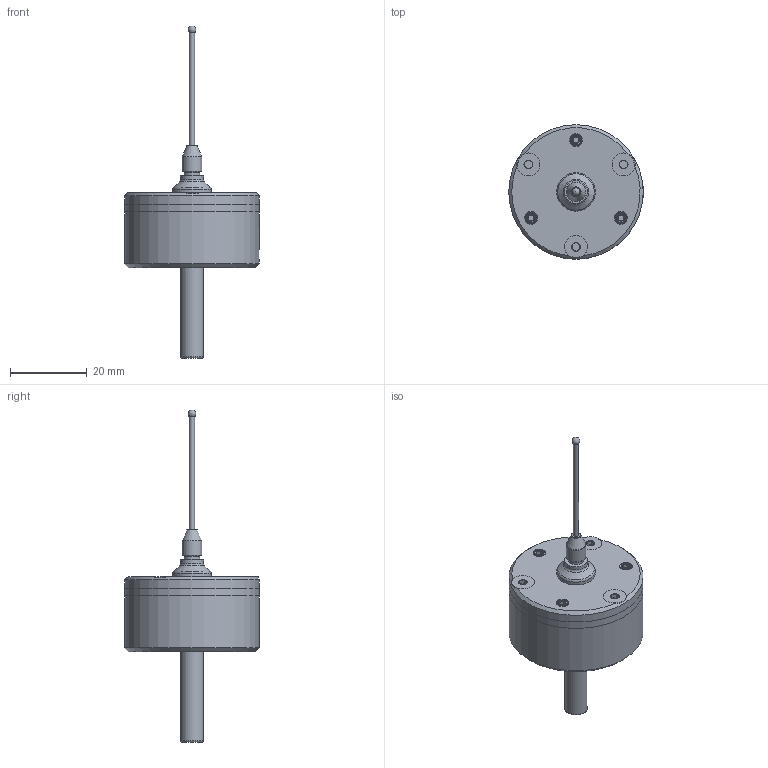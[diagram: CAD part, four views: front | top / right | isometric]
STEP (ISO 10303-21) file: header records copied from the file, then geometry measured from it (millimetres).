
FILE_DESCRIPTION(/* description */ (''),/* implementation_level */ '2;1');
FILE_NAME(/* name */ 'DIG3D.LP.C.step',/* time_stamp */ '2025-04-19T14:48:01+02:00',/* author */ (''),/* organization */ (''),/* preprocessor_version */ 'ST-DEVELOPER v20.1',/* originating_system */ 'Autodesk Translation Framework v14.4.0.0',/* authorisation */ '');
FILE_SCHEMA (('AUTOMOTIVE_DESIGN { 1 0 10303 214 3 1 1 }'));
Length unit declared in the file: millimetre
Products named in the file (11): DIG3D.LP.C mk2; Osa; 91294A132_Black-Oxide Alloy Steel Hex Drive Flat Head Screw; M2.5 extender 10mm; silicon_4mm; Component1; Body; M2.5tip; Component17; BodyD; 91390A100_Alloy Steel Cup-Point Set Screw
Assembly tree (14 placements, depth 3):
  DIG3D.LP.C mk2
    Osa
    91294A132_Black-Oxide Alloy Steel Hex Drive Flat Head Screw  x3
    M2.5 extender 10mm
    silicon_4mm
      Component1
    Body
    M2.5tip
    Component17
    BodyD
    91390A100_Alloy Steel Cup-Point Set Screw  x3
Bounding box: 35 x 35 x 86.4 mm (x, y, z)
Volume: 19415.3 mm3; surface area: 10835.6 mm2
Topology: 14 solids, 14 shells, 443 faces, 1116 edges, 705 vertices
Faces by surface type: cylinder 258, plane 91, cone 70, bspline 15, torus 7, sphere 2
Full cylindrical faces by diameter (mm): 1.35 x1, 2.075 x7, 2.35 x90, 2.43 x1, 2.5 x4, 2.529 x6, 2.58 x4, 3 x87, 3.2 x1, 4 x2, 5.1 x1, 5.95 x3, 6 x4, 7.4 x1, 10 x2, 12 x1, 35 x3
Entity records: 13216 total; most frequent: CARTESIAN_POINT 8025, ORIENTED_EDGE 1070, DIRECTION 933, EDGE_CURVE 535, AXIS2_PLACEMENT_3D 381, VERTEX_POINT 343, EDGE_LOOP 256, FACE_OUTER_BOUND 221
